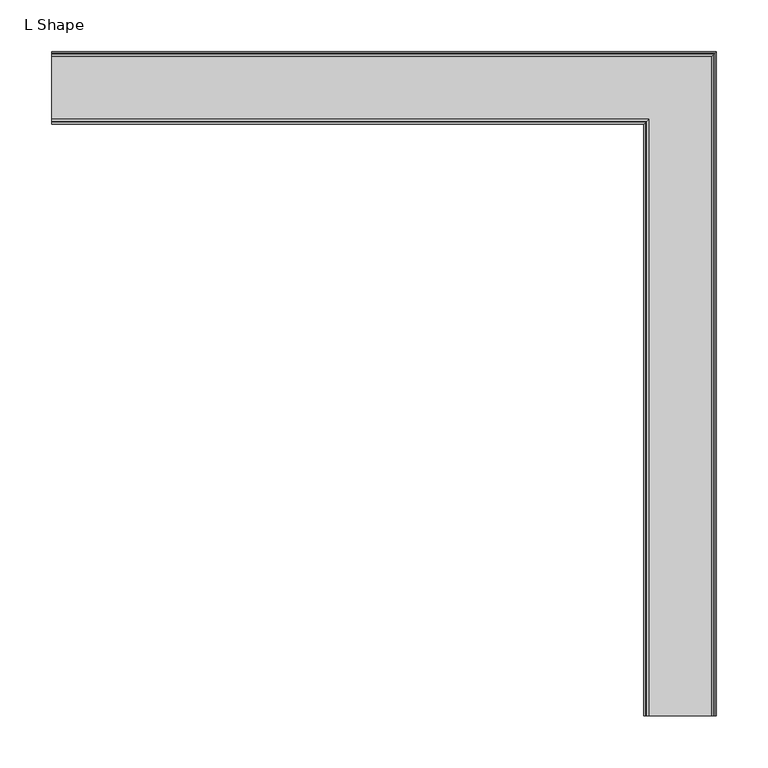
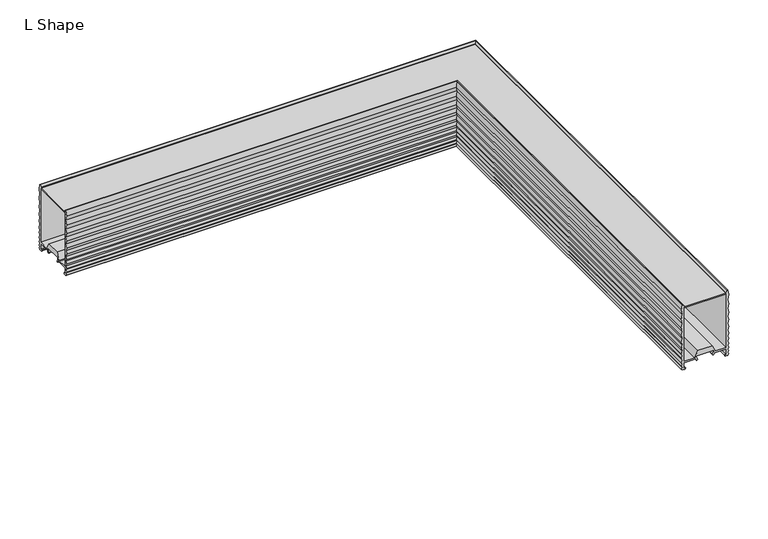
"""IFC4 building model written with IfcOpenShell, lengths in millimetres: light fixture geometry, Lighting-Pendant-Betacalco-Bellows-L_Shape : L Shape."""

from ifc_helpers import new_model, si_unit, frame, origin, place, context, project, spatial, polyline, circle_curve, ellipse_curve, outline, extrude, source, transform, mapped, element, save
from ifc_brep_helpers import plane_surface, cylinder_surface, advanced_brep


def l_shape_60d88c94(model_context):
    return source(origin(), model_context, "Body", "SolidModel", [
        advanced_brep(
        [(273.578, -609.6, 620.268), (291.2870711, -609.6, 620.268), (292.0570321, -609.6, 618.214822), (293.7447356, -609.6, 618.8406239), (292.11399, -609.6, 623.1891701), (292.7358437, -609.6, 624.4333325), (316.8641563, -609.6, 624.4333325), (317.48601, -609.6, 623.1891701), (315.8552644, -609.6, 618.8406239), (317.5429679, -609.6, 618.214822), (318.3129289, -609.6, 620.268), (336.022, -609.6, 620.268), (336.022, -609.6, 611.759), (333.4925845, -609.6, 611.759), (335.4378, -609.6, 609.6), (338.0887943, -609.6, 609.6), (339.9621621, -609.6, 611.6283861), (338.181, -609.6, 613.664), (339.959, -609.6, 616.204), (338.181, -609.6, 618.744), (339.959, -609.6, 621.792), (338.181, -609.6, 624.84), (339.959, -609.6, 628.396), (338.181, -609.6, 631.952), (339.959, -609.6, 635.762), (338.181, -609.6, 639.572), (339.9303587, -609.6, 644.0703509), (338.2082002, -609.6, 648.6460566), (339.9355055, -609.6, 653.7288728), (338.2034215, -609.6, 658.8119386), (339.9393965, -609.6, 664.402389), (338.1997837, -609.6, 669.9929656), (339.9424053, -609.6, 676.091104), (338.1964031, -609.6, 682.1911894), (339.9466792, -609.6, 689.3067168), (338.1931082, -609.6, 696.4195673), (339.9474913, -609.6, 703.786321), (338.1814932, -609.6, 711.2), (337.3877432, -609.6, 711.2), (335.22825, -609.6, 708.8470342), (335.22825, -609.6, 707.3961196), (336.022, -609.6, 707.3961196), (336.022, -609.6, 622.427), (320.2806146, -609.6, 622.427), (315.4222255, -609.6, 632.1473325), (294.1777745, -609.6, 632.1473325), (289.3193854, -609.6, 622.427), (273.578, -609.6, 622.427), (273.578, -609.6, 707.3961196), (274.37175, -609.6, 707.3961196), (274.37175, -609.6, 708.8470342), (272.2122568, -609.6, 711.2), (271.4185068, -609.6, 711.2), (269.6525087, -609.6, 703.786321), (271.4068918, -609.6, 696.4195673), (269.6533208, -609.6, 689.3067168), (271.4035969, -609.6, 682.1911894), (269.6575947, -609.6, 676.091104), (271.4002163, -609.6, 669.9929656), (269.6606035, -609.6, 664.402389), (271.3965785, -609.6, 658.8119386), (269.6644945, -609.6, 653.7288728), (271.3917998, -609.6, 648.6460566), (269.6696413, -609.6, 644.0703509), (271.419, -609.6, 639.572), (269.641, -609.6, 635.762), (271.419, -609.6, 631.952), (269.641, -609.6, 628.396), (271.419, -609.6, 624.84), (269.641, -609.6, 621.792), (271.419, -609.6, 618.744), (269.641, -609.6, 616.204), (271.419, -609.6, 613.664), (269.6378379, -609.6, 611.6283861), (271.5112057, -609.6, 609.6), (274.1622, -609.6, 609.6), (276.1074155, -609.6, 611.759), (273.578, -609.6, 611.759), (-304.8, -31.222, 620.268), (-304.8, -31.222, 611.759), (-304.8, -28.6925845, 611.759), (-304.8, -30.6378, 609.6), (-304.8, -33.2887943, 609.6), (-304.8, -35.1621621, 611.6283861), (-304.8, -33.381, 613.664), (-304.8, -35.159, 616.204), (-304.8, -33.381, 618.744), (-304.8, -35.159, 621.792), (-304.8, -33.381, 624.84), (-304.8, -35.159, 628.396), (-304.8, -33.381, 631.952), (-304.8, -35.159, 635.762), (-304.8, -33.381, 639.572), (-304.8, -35.1303587, 644.0703509), (-304.8, -33.4082002, 648.6460566), (-304.8, -35.1355055, 653.7288728), (-304.8, -33.4034215, 658.8119386), (-304.8, -35.1393965, 664.402389), (-304.8, -33.3997837, 669.9929656), (-304.8, -35.1424053, 676.091104), (-304.8, -33.3964031, 682.1911894), (-304.8, -35.1466792, 689.3067168), (-304.8, -33.3931082, 696.4195673), (-304.8, -35.1474913, 703.786321), (-304.8, -33.3814932, 711.2), (-304.8, -32.5877432, 711.2), (-304.8, -30.42825, 708.8470342), (-304.8, -30.42825, 707.3961196), (-304.8, -31.222, 707.3961196), (-304.8, -31.222, 622.427), (-304.8, -15.4806146, 622.427), (-304.8, -10.6222255, 632.1473325), (-304.8, 10.6222255, 632.1473325), (-304.8, 15.4806146, 622.427), (-304.8, 31.222, 622.427), (-304.8, 31.222, 707.3961196), (-304.8, 30.42825, 707.3961196), (-304.8, 30.42825, 708.8470342), (-304.8, 32.5877432, 711.2), (-304.8, 33.3814932, 711.2), (-304.8, 35.1474913, 703.786321), (-304.8, 33.3931082, 696.4195673), (-304.8, 35.1466792, 689.3067168), (-304.8, 33.3964031, 682.1911894), (-304.8, 35.1424053, 676.091104), (-304.8, 33.3997837, 669.9929656), (-304.8, 35.1393965, 664.402389), (-304.8, 33.4034215, 658.8119386), (-304.8, 35.1355055, 653.7288728), (-304.8, 33.4082002, 648.6460566), (-304.8, 35.1303587, 644.0703509), (-304.8, 33.381, 639.572), (-304.8, 35.159, 635.762), (-304.8, 33.381, 631.952), (-304.8, 35.159, 628.396), (-304.8, 33.381, 624.84), (-304.8, 35.159, 621.792), (-304.8, 33.381, 618.744), (-304.8, 35.159, 616.204), (-304.8, 33.381, 613.664), (-304.8, 35.1621621, 611.6283861), (-304.8, 33.2887943, 609.6), (-304.8, 30.6378, 609.6), (-304.8, 28.6925845, 611.759), (-304.8, 31.222, 611.759), (-304.8, 31.222, 620.268), (-304.8, 13.5129289, 620.268), (-304.8, 12.7429679, 618.214822), (-304.8, 11.0552644, 618.8406239), (-304.8, 12.68601, 623.1891701), (-304.8, 12.0641563, 624.4333325), (-304.8, -12.0641563, 624.4333325), (-304.8, -12.68601, 623.1891701), (-304.8, -11.0552644, 618.8406239), (-304.8, -12.7429679, 618.214822), (-304.8, -13.5129289, 620.268), (292.0570321, -12.7429679, 618.214822), (291.2870711, -13.5129289, 620.268), (293.7447356, -11.0552644, 618.8406239), (292.11399, -12.68601, 623.1891701), (292.7358437, -12.0641563, 624.4333325), (317.48601, 12.68601, 623.1891701), (316.8641563, 12.0641563, 624.4333325), (315.8552644, 11.0552644, 618.8406239), (317.5429679, 12.7429679, 618.214822), (318.3129289, 13.5129289, 620.268), (336.022, 31.222, 611.759), (336.022, 31.222, 620.268), (335.4378, 30.6378, 609.6), (333.4925845, 28.6925845, 611.759), (339.9621621, 35.1621621, 611.6283861), (338.0887943, 33.2887943, 609.6), (338.181, 33.381, 613.664), (339.959, 35.159, 616.204), (338.181, 33.381, 618.744), (339.959, 35.159, 621.792), (338.181, 33.381, 624.84), (339.959, 35.159, 628.396), (338.181, 33.381, 631.952), (339.959, 35.159, 635.762), (338.181, 33.381, 639.572), (339.9303587, 35.1303587, 644.0703509), (338.2082002, 33.4082002, 648.6460566), (339.9355055, 35.1355055, 653.7288728), (338.2034215, 33.4034215, 658.8119386), (339.9393965, 35.1393965, 664.402389), (338.1997837, 33.3997837, 669.9929656), (339.9424053, 35.1424053, 676.091104), (338.1964031, 33.3964031, 682.1911894), (339.9466792, 35.1466792, 689.3067168), (338.1931082, 33.3931082, 696.4195673), (339.9474913, 35.1474913, 703.786321), (338.1814932, 33.3814932, 711.2), (335.22825, 30.42825, 708.8470342), (337.3877432, 32.5877432, 711.2), (335.22825, 30.42825, 707.3961196), (336.022, 31.222, 622.427), (336.022, 31.222, 707.3961196), (315.4222255, 10.6222255, 632.1473325), (320.2806146, 15.4806146, 622.427), (289.3193854, -15.4806146, 622.427), (294.1777745, -10.6222255, 632.1473325), (273.578, -31.222, 707.3961196), (273.578, -31.222, 622.427), (274.37175, -30.42825, 708.8470342), (274.37175, -30.42825, 707.3961196), (272.2122568, -32.5877432, 711.2), (269.6525087, -35.1474913, 703.786321), (271.4185068, -33.3814932, 711.2), (271.4068918, -33.3931082, 696.4195673), (269.6533208, -35.1466792, 689.3067168), (271.4035969, -33.3964031, 682.1911894), (269.6575947, -35.1424053, 676.091104), (271.4002163, -33.3997837, 669.9929656), (269.6606035, -35.1393965, 664.402389), (271.3965785, -33.4034215, 658.8119386), (269.6644945, -35.1355055, 653.7288728), (271.3917998, -33.4082002, 648.6460566), (269.6696413, -35.1303587, 644.0703509), (271.419, -33.381, 639.572), (269.641, -35.159, 635.762), (271.419, -33.381, 631.952), (269.641, -35.159, 628.396), (271.419, -33.381, 624.84), (269.641, -35.159, 621.792), (271.419, -33.381, 618.744), (269.641, -35.159, 616.204), (271.419, -33.381, 613.664), (269.6378379, -35.1621621, 611.6283861), (271.5112057, -33.2887943, 609.6), (276.1074155, -28.6925845, 611.759), (274.1622, -30.6378, 609.6), (273.578, -31.222, 620.268), (273.578, -31.222, 611.759)],
        [
            (0, 1),
            (1, 2),
            (2, 3, circle_curve(frame((292.8997277, -609.6, 618.5308408), z_axis=(0.0, -1.0, 0.0), x_axis=(0.34325550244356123, 0.0, -0.9392420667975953)), 0.9000021)),
            (3, 4),
            (4, 5),
            (5, 6),
            (6, 7),
            (7, 8),
            (8, 9, circle_curve(frame((316.7002723, -609.6, 618.5308408), z_axis=(0.0, -1.0, 0.0), x_axis=(-0.34325550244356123, 0.0, -0.9392420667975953)), 0.9000021)),
            (9, 10),
            (10, 11),
            (11, 12),
            (12, 13),
            (13, 14, circle_curve(frame((335.4378, -609.6, 611.5558), z_axis=(0.0, -1.0, 0.0), x_axis=(0.0, 0.0, -1.0)), 1.9558)),
            (14, 15),
            (15, 16),
            (16, 17),
            (17, 18),
            (18, 19),
            (19, 20),
            (20, 21),
            (21, 22),
            (22, 23),
            (23, 24),
            (24, 25),
            (25, 26),
            (26, 27),
            (27, 28),
            (28, 29),
            (29, 30),
            (30, 31),
            (31, 32),
            (32, 33),
            (33, 34),
            (34, 35),
            (35, 36),
            (36, 37),
            (37, 38),
            (38, 39),
            (39, 40),
            (40, 41),
            (41, 42),
            (42, 43),
            (43, 44),
            (44, 45),
            (45, 46),
            (46, 47),
            (47, 48),
            (48, 49),
            (49, 50),
            (50, 51),
            (51, 52),
            (52, 53),
            (53, 54),
            (54, 55),
            (55, 56),
            (56, 57),
            (57, 58),
            (58, 59),
            (59, 60),
            (60, 61),
            (61, 62),
            (62, 63),
            (63, 64),
            (64, 65),
            (65, 66),
            (66, 67),
            (67, 68),
            (68, 69),
            (69, 70),
            (70, 71),
            (71, 72),
            (72, 73),
            (73, 74),
            (74, 75),
            (75, 76, circle_curve(frame((274.1622, -609.6, 611.5558), z_axis=(0.0, -1.0, 0.0), x_axis=(0.0, 0.0, -1.0)), 1.9558)),
            (76, 77),
            (77, 0),
            (78, 79),
            (79, 80),
            (80, 81, circle_curve(frame((-304.8, -30.6378, 611.5558), z_axis=(-1.0, 0.0, 0.0), x_axis=(0.0, 0.0, -1.0)), 1.9558)),
            (81, 82),
            (82, 83),
            (83, 84),
            (84, 85),
            (85, 86),
            (86, 87),
            (87, 88),
            (88, 89),
            (89, 90),
            (90, 91),
            (91, 92),
            (92, 93),
            (93, 94),
            (94, 95),
            (95, 96),
            (96, 97),
            (97, 98),
            (98, 99),
            (99, 100),
            (100, 101),
            (101, 102),
            (102, 103),
            (103, 104),
            (104, 105),
            (105, 106),
            (106, 107),
            (107, 108),
            (108, 109),
            (109, 110),
            (110, 111),
            (111, 112),
            (112, 113),
            (113, 114),
            (114, 115),
            (115, 116),
            (116, 117),
            (117, 118),
            (118, 119),
            (119, 120),
            (120, 121),
            (121, 122),
            (122, 123),
            (123, 124),
            (124, 125),
            (125, 126),
            (126, 127),
            (127, 128),
            (128, 129),
            (129, 130),
            (130, 131),
            (131, 132),
            (132, 133),
            (133, 134),
            (134, 135),
            (135, 136),
            (136, 137),
            (137, 138),
            (138, 139),
            (139, 140),
            (140, 141),
            (141, 142),
            (142, 143, circle_curve(frame((-304.8, 30.6378, 611.5558), z_axis=(-1.0, 0.0, 0.0), x_axis=(0.0, 0.0, -1.0)), 1.9558)),
            (143, 144),
            (144, 145),
            (145, 146),
            (146, 147),
            (147, 148, circle_curve(frame((-304.8, 11.9002723, 618.5308408), z_axis=(-1.0, 0.0, 0.0), x_axis=(0.0, -0.34325550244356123, -0.9392420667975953)), 0.9000021)),
            (148, 149),
            (149, 150),
            (150, 151),
            (151, 152),
            (152, 153),
            (153, 154, circle_curve(frame((-304.8, -11.9002723, 618.5308408), z_axis=(-1.0, 0.0, 0.0), x_axis=(0.0, 0.34325550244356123, -0.9392420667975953)), 0.9000021)),
            (154, 155),
            (155, 78),
            (156, 157),
            (157, 155),
            (154, 156),
            (158, 156, ellipse_curve(frame((292.8997277, -11.9002723, 618.5308408), z_axis=(-0.7071067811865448, 0.7071067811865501, 0.0), x_axis=(0.7071067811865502, 0.7071067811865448, 0.0)), 1.2727952, 0.9000021)),
            (153, 158),
            (159, 158),
            (152, 159),
            (160, 159),
            (151, 160),
            (161, 162),
            (162, 150),
            (149, 161),
            (163, 161),
            (148, 163),
            (164, 163, ellipse_curve(frame((316.7002723, 11.9002723, 618.5308408), z_axis=(-0.7071067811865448, 0.7071067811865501, 0.0), x_axis=(0.7071067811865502, 0.7071067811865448, 0.0)), 1.2727952, 0.9000021)),
            (147, 164),
            (165, 164),
            (146, 165),
            (166, 167),
            (167, 145),
            (144, 166),
            (168, 169, ellipse_curve(frame((335.4378, 30.6378, 611.5558), z_axis=(-0.7071067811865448, 0.7071067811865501, 0.0), x_axis=(0.7071067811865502, 0.7071067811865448, 0.0)), 2.7659189, 1.9558)),
            (169, 143),
            (142, 168),
            (170, 171),
            (171, 141),
            (140, 170),
            (172, 170),
            (139, 172),
            (173, 172),
            (138, 173),
            (174, 173),
            (137, 174),
            (175, 174),
            (136, 175),
            (176, 175),
            (135, 176),
            (177, 176),
            (134, 177),
            (178, 177),
            (133, 178),
            (179, 178),
            (132, 179),
            (180, 179),
            (131, 180),
            (181, 180),
            (130, 181),
            (182, 181),
            (129, 182),
            (183, 182),
            (128, 183),
            (184, 183),
            (127, 184),
            (185, 184),
            (126, 185),
            (186, 185),
            (125, 186),
            (187, 186),
            (124, 187),
            (188, 187),
            (123, 188),
            (189, 188),
            (122, 189),
            (190, 189),
            (121, 190),
            (191, 190),
            (120, 191),
            (192, 191),
            (119, 192),
            (193, 194),
            (194, 118),
            (117, 193),
            (195, 193),
            (116, 195),
            (196, 197),
            (197, 115),
            (114, 196),
            (198, 199),
            (199, 113),
            (112, 198),
            (200, 201),
            (201, 111),
            (110, 200),
            (202, 203),
            (203, 109),
            (108, 202),
            (204, 205),
            (205, 107),
            (106, 204),
            (206, 204),
            (105, 206),
            (207, 208),
            (208, 104),
            (103, 207),
            (209, 207),
            (102, 209),
            (210, 209),
            (101, 210),
            (211, 210),
            (100, 211),
            (212, 211),
            (99, 212),
            (213, 212),
            (98, 213),
            (214, 213),
            (97, 214),
            (215, 214),
            (96, 215),
            (216, 215),
            (95, 216),
            (217, 216),
            (94, 217),
            (218, 217),
            (93, 218),
            (219, 218),
            (92, 219),
            (220, 219),
            (91, 220),
            (221, 220),
            (90, 221),
            (222, 221),
            (89, 222),
            (223, 222),
            (88, 223),
            (224, 223),
            (87, 224),
            (225, 224),
            (86, 225),
            (226, 225),
            (85, 226),
            (227, 226),
            (84, 227),
            (228, 227),
            (83, 228),
            (229, 228),
            (82, 229),
            (230, 231, ellipse_curve(frame((274.1622, -30.6378, 611.5558), z_axis=(-0.7071067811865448, 0.7071067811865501, 0.0), x_axis=(0.7071067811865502, 0.7071067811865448, 0.0)), 2.7659189, 1.9558)),
            (231, 81),
            (80, 230),
            (232, 233),
            (233, 79),
            (78, 232),
            (0, 232),
            (157, 1),
            (156, 2),
            (158, 3),
            (159, 4),
            (160, 5),
            (162, 6),
            (161, 7),
            (163, 8),
            (164, 9),
            (165, 10),
            (167, 11),
            (166, 12),
            (169, 13),
            (168, 14),
            (171, 15),
            (170, 16),
            (172, 17),
            (173, 18),
            (174, 19),
            (175, 20),
            (176, 21),
            (177, 22),
            (178, 23),
            (179, 24),
            (180, 25),
            (181, 26),
            (182, 27),
            (183, 28),
            (184, 29),
            (185, 30),
            (186, 31),
            (187, 32),
            (188, 33),
            (189, 34),
            (190, 35),
            (191, 36),
            (192, 37),
            (194, 38),
            (193, 39),
            (195, 40),
            (197, 41),
            (196, 42),
            (199, 43),
            (198, 44),
            (201, 45),
            (200, 46),
            (203, 47),
            (202, 48),
            (205, 49),
            (204, 50),
            (206, 51),
            (208, 52),
            (207, 53),
            (209, 54),
            (210, 55),
            (211, 56),
            (212, 57),
            (213, 58),
            (214, 59),
            (215, 60),
            (216, 61),
            (217, 62),
            (218, 63),
            (219, 64),
            (220, 65),
            (221, 66),
            (222, 67),
            (223, 68),
            (224, 69),
            (225, 70),
            (226, 71),
            (227, 72),
            (228, 73),
            (229, 74),
            (231, 75),
            (230, 76),
            (233, 77),
        ],
        [
            plane_surface(frame((304.8, -609.6, 0.0), z_axis=(0.0, -1.0, 0.0), x_axis=(0.0, 0.0, 1.0))),
            plane_surface(frame((-304.8, 0.0, 0.0), z_axis=(-1.0, 0.0, 0.0), x_axis=(0.0, 0.0, 1.0))),
            plane_surface(frame((291.2870711, -13.5129289, 620.268), z_axis=(0.0, -0.9363262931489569, -0.3511311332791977), x_axis=(-1.0, 0.0, 0.0))),
            cylinder_surface(frame((304.8, -11.9002723, 618.5308408), z_axis=(1.0, 0.0, 0.0), x_axis=(0.0, 0.34325550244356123, -0.9392420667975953)), 0.9000021),
            plane_surface(frame((293.7447356, -11.0552644, 618.8406239), z_axis=(0.0, 0.9363262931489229, 0.35113113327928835), x_axis=(-1.0, 0.0, 0.0))),
            plane_surface(frame((292.11399, -12.68601, 623.1891701), z_axis=(0.0, 0.89449260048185, -0.44708275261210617), x_axis=(-1.0, 0.0, 0.0))),
            plane_surface(frame((316.8641563, 12.0641563, 624.4333325), z_axis=(0.0, -0.89449260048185, -0.44708275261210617), x_axis=(-1.0, 0.0, 0.0))),
            plane_surface(frame((317.48601, 12.68601, 623.1891701), z_axis=(0.0, -0.9363262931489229, 0.35113113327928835), x_axis=(-1.0, 0.0, 0.0))),
            cylinder_surface(frame((304.8, 11.9002723, 618.5308408), z_axis=(1.0, 0.0, 0.0), x_axis=(0.0, -0.34325550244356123, -0.9392420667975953)), 0.9000021),
            plane_surface(frame((317.5429679, 12.7429679, 618.214822), z_axis=(0.0, 0.9363262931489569, -0.3511311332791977), x_axis=(-1.0, 0.0, 0.0))),
            plane_surface(frame((336.022, 31.222, 620.268), z_axis=(0.0, -1.0, 0.0), x_axis=(-1.0, 0.0, 0.0))),
            cylinder_surface(frame((304.8, 30.6378, 611.5558), z_axis=(1.0, 0.0, 0.0), x_axis=(0.0, 0.0, -1.0)), 1.9558),
            plane_surface(frame((338.0887943, 33.2887943, 609.6), z_axis=(0.0, 0.7346208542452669, -0.6784778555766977), x_axis=(-1.0, 0.0, 0.0))),
            plane_surface(frame((339.9621621, 35.1621621, 611.6283861), z_axis=(0.0, 0.75257669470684, 0.6585046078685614), x_axis=(-1.0, 0.0, 0.0))),
            plane_surface(frame((338.181, 33.381, 613.664), z_axis=(0.0, 0.8192319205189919, -0.5734623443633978), x_axis=(-1.0, 0.0, 0.0))),
            plane_surface(frame((339.959, 35.159, 616.204), z_axis=(0.0, 0.8192319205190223, 0.5734623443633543), x_axis=(-1.0, 0.0, 0.0))),
            plane_surface(frame((338.181, 33.381, 618.744), z_axis=(0.0, 0.8637789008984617, -0.503871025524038), x_axis=(-1.0, 0.0, 0.0))),
            plane_surface(frame((339.959, 35.159, 621.792), z_axis=(0.0, 0.8637789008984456, 0.5038710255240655), x_axis=(-1.0, 0.0, 0.0))),
            plane_surface(frame((338.181, 33.381, 624.84), z_axis=(0.0, 0.8944271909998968, -0.4472135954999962), x_axis=(-1.0, 0.0, 0.0))),
            plane_surface(frame((339.959, 35.159, 628.396), z_axis=(0.0, 0.8944271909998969, 0.44721359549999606), x_axis=(-1.0, 0.0, 0.0))),
            plane_surface(frame((338.181, 33.381, 631.952), z_axis=(0.0, 0.9061831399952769, -0.4228854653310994), x_axis=(-1.0, 0.0, 0.0))),
            plane_surface(frame((339.959, 35.159, 635.762), z_axis=(0.0, 0.9061831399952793, 0.4228854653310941), x_axis=(-1.0, 0.0, 0.0))),
            plane_surface(frame((338.181, 33.381, 639.572), z_axis=(0.0, 0.9320046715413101, -0.362446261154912), x_axis=(-1.0, 0.0, 0.0))),
            plane_surface(frame((339.9303587, 35.1303587, 644.0703509), z_axis=(0.0, 0.9359069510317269, 0.35224732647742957), x_axis=(-1.0, 0.0, 0.0))),
            plane_surface(frame((338.2082002, 33.4082002, 648.6460566), z_axis=(0.0, 0.9468211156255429, -0.3217604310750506), x_axis=(-1.0, 0.0, 0.0))),
            plane_surface(frame((339.9355055, 35.1355055, 653.7288728), z_axis=(0.0, 0.9465545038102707, 0.3225439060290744), x_axis=(-1.0, 0.0, 0.0))),
            plane_surface(frame((338.2034215, 33.4034215, 658.8119386), z_axis=(0.0, 0.9550153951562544, -0.2965562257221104), x_axis=(-1.0, 0.0, 0.0))),
            plane_surface(frame((339.9393965, 35.1393965, 664.402389), z_axis=(0.0, 0.9548411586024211, 0.29711674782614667), x_axis=(-1.0, 0.0, 0.0))),
            plane_surface(frame((338.1997837, 33.3997837, 669.9929656), z_axis=(0.0, 0.9615116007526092, -0.2747643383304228), x_axis=(-1.0, 0.0, 0.0))),
            plane_surface(frame((339.9424053, 35.1424053, 676.091104), z_axis=(0.0, 0.9613939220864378, 0.27517581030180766), x_axis=(-1.0, 0.0, 0.0))),
            plane_surface(frame((338.1964031, 33.3964031, 682.1911894), z_axis=(0.0, 0.971054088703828, -0.23885970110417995), x_axis=(-1.0, 0.0, 0.0))),
            plane_surface(frame((339.9466792, 35.1466792, 689.3067168), z_axis=(0.0, 0.9709287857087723, 0.23936852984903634), x_axis=(-1.0, 0.0, 0.0))),
            plane_surface(frame((338.1931082, 33.3931082, 696.4195673), z_axis=(0.0, 0.9727944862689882, -0.23166978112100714), x_axis=(-1.0, 0.0, 0.0))),
            plane_surface(frame((339.9474913, 35.1474913, 703.786321), z_axis=(0.0, 0.9727814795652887, 0.23172439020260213), x_axis=(-1.0, 0.0, 0.0))),
            plane_surface(frame((337.3877432, 32.5877432, 711.2), z_axis=(0.0, -0.7367472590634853, 0.6761682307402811), x_axis=(-1.0, 0.0, 0.0))),
            plane_surface(frame((335.22825, 30.42825, 708.8470342), z_axis=(0.0, -1.0, 0.0), x_axis=(-1.0, 0.0, 0.0))),
            plane_surface(frame((336.022, 31.222, 707.3961196), z_axis=(0.0, -1.0, 0.0), x_axis=(-1.0, 0.0, 0.0))),
            plane_surface(frame((320.2806146, 15.4806146, 622.427), z_axis=(0.0, 0.8944926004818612, 0.4470827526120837), x_axis=(-1.0, 0.0, 0.0))),
            plane_surface(frame((294.1777745, -10.6222255, 632.1473325), z_axis=(0.0, -0.8944926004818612, 0.4470827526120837), x_axis=(-1.0, 0.0, 0.0))),
            plane_surface(frame((273.578, -31.222, 622.427), z_axis=(0.0, 1.0, 0.0), x_axis=(-1.0, 0.0, 0.0))),
            plane_surface(frame((274.37175, -30.42825, 707.3961196), z_axis=(0.0, 1.0, 0.0), x_axis=(-1.0, 0.0, 0.0))),
            plane_surface(frame((274.37175, -30.42825, 708.8470342), z_axis=(0.0, 0.7367472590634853, 0.6761682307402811), x_axis=(-1.0, 0.0, 0.0))),
            plane_surface(frame((271.4185068, -33.3814932, 711.2), z_axis=(0.0, -0.9727814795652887, 0.23172439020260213), x_axis=(-1.0, 0.0, 0.0))),
            plane_surface(frame((269.6525087, -35.1474913, 703.786321), z_axis=(0.0, -0.9727944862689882, -0.23166978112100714), x_axis=(-1.0, 0.0, 0.0))),
            plane_surface(frame((271.4068918, -33.3931082, 696.4195673), z_axis=(0.0, -0.9709287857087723, 0.23936852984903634), x_axis=(-1.0, 0.0, 0.0))),
            plane_surface(frame((269.6533208, -35.1466792, 689.3067168), z_axis=(0.0, -0.971054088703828, -0.23885970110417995), x_axis=(-1.0, 0.0, 0.0))),
            plane_surface(frame((271.4035969, -33.3964031, 682.1911894), z_axis=(0.0, -0.9613939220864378, 0.27517581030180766), x_axis=(-1.0, 0.0, 0.0))),
            plane_surface(frame((269.6575947, -35.1424053, 676.091104), z_axis=(0.0, -0.9615116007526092, -0.2747643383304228), x_axis=(-1.0, 0.0, 0.0))),
            plane_surface(frame((271.4002163, -33.3997837, 669.9929656), z_axis=(0.0, -0.9548411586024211, 0.29711674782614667), x_axis=(-1.0, 0.0, 0.0))),
            plane_surface(frame((269.6606035, -35.1393965, 664.402389), z_axis=(0.0, -0.9550153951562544, -0.2965562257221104), x_axis=(-1.0, 0.0, 0.0))),
            plane_surface(frame((271.3965785, -33.4034215, 658.8119386), z_axis=(0.0, -0.9465545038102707, 0.3225439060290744), x_axis=(-1.0, 0.0, 0.0))),
            plane_surface(frame((269.6644945, -35.1355055, 653.7288728), z_axis=(0.0, -0.9468211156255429, -0.3217604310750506), x_axis=(-1.0, 0.0, 0.0))),
            plane_surface(frame((271.3917998, -33.4082002, 648.6460566), z_axis=(0.0, -0.9359069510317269, 0.35224732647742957), x_axis=(-1.0, 0.0, 0.0))),
            plane_surface(frame((269.6696413, -35.1303587, 644.0703509), z_axis=(0.0, -0.9320046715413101, -0.362446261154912), x_axis=(-1.0, 0.0, 0.0))),
            plane_surface(frame((271.419, -33.381, 639.572), z_axis=(0.0, -0.9061831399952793, 0.4228854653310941), x_axis=(-1.0, 0.0, 0.0))),
            plane_surface(frame((269.641, -35.159, 635.762), z_axis=(0.0, -0.9061831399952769, -0.4228854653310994), x_axis=(-1.0, 0.0, 0.0))),
            plane_surface(frame((271.419, -33.381, 631.952), z_axis=(0.0, -0.8944271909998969, 0.44721359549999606), x_axis=(-1.0, 0.0, 0.0))),
            plane_surface(frame((269.641, -35.159, 628.396), z_axis=(0.0, -0.8944271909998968, -0.4472135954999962), x_axis=(-1.0, 0.0, 0.0))),
            plane_surface(frame((271.419, -33.381, 624.84), z_axis=(0.0, -0.8637789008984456, 0.5038710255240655), x_axis=(-1.0, 0.0, 0.0))),
            plane_surface(frame((269.641, -35.159, 621.792), z_axis=(0.0, -0.8637789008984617, -0.503871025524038), x_axis=(-1.0, 0.0, 0.0))),
            plane_surface(frame((271.419, -33.381, 618.744), z_axis=(0.0, -0.8192319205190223, 0.5734623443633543), x_axis=(-1.0, 0.0, 0.0))),
            plane_surface(frame((269.641, -35.159, 616.204), z_axis=(0.0, -0.8192319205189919, -0.5734623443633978), x_axis=(-1.0, 0.0, 0.0))),
            plane_surface(frame((271.419, -33.381, 613.664), z_axis=(0.0, -0.75257669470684, 0.6585046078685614), x_axis=(-1.0, 0.0, 0.0))),
            plane_surface(frame((269.6378379, -35.1621621, 611.6283861), z_axis=(0.0, -0.7346208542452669, -0.6784778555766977), x_axis=(-1.0, 0.0, 0.0))),
            cylinder_surface(frame((304.8, -30.6378, 611.5558), z_axis=(1.0, 0.0, 0.0), x_axis=(0.0, 0.0, -1.0)), 1.9558),
            plane_surface(frame((273.578, -31.222, 611.759), z_axis=(0.0, 1.0, 0.0), x_axis=(-1.0, 0.0, 0.0))),
            plane_surface(frame((273.578, -609.6, 620.268), z_axis=(0.0, 0.0, -1.0), x_axis=(0.0, 1.0, 0.0))),
            plane_surface(frame((291.2870711, -609.6, 620.268), z_axis=(-0.9363262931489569, 0.0, -0.3511311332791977), x_axis=(0.0, 1.0, 0.0))),
            cylinder_surface(frame((292.8997277, -609.6, 618.5308408), z_axis=(0.0, -1.0, 0.0), x_axis=(0.34325550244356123, 0.0, -0.9392420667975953)), 0.9000021),
            plane_surface(frame((293.7447356, -609.6, 618.8406239), z_axis=(0.9363262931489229, 0.0, 0.35113113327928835), x_axis=(0.0, 1.0, 0.0))),
            plane_surface(frame((292.11399, -609.6, 623.1891701), z_axis=(0.89449260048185, 0.0, -0.44708275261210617), x_axis=(0.0, 1.0, 0.0))),
            plane_surface(frame((292.7358437, -609.6, 624.4333325), z_axis=(0.0, 0.0, -1.0), x_axis=(0.0, 1.0, 0.0))),
            plane_surface(frame((316.8641563, -609.6, 624.4333325), z_axis=(-0.89449260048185, 0.0, -0.44708275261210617), x_axis=(0.0, 1.0, 0.0))),
            plane_surface(frame((317.48601, -609.6, 623.1891701), z_axis=(-0.9363262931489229, 0.0, 0.35113113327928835), x_axis=(0.0, 1.0, 0.0))),
            cylinder_surface(frame((316.7002723, -609.6, 618.5308408), z_axis=(0.0, -1.0, 0.0), x_axis=(-0.34325550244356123, 0.0, -0.9392420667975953)), 0.9000021),
            plane_surface(frame((317.5429679, -609.6, 618.214822), z_axis=(0.9363262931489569, 0.0, -0.3511311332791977), x_axis=(0.0, 1.0, 0.0))),
            plane_surface(frame((318.3129289, -609.6, 620.268), z_axis=(0.0, 0.0, -1.0), x_axis=(0.0, 1.0, 0.0))),
            plane_surface(frame((336.022, -609.6, 620.268), z_axis=(-1.0, 0.0, 0.0), x_axis=(0.0, 1.0, 0.0))),
            plane_surface(frame((336.022, -609.6, 611.759), z_axis=(0.0, 0.0, 1.0), x_axis=(0.0, 1.0, 0.0))),
            cylinder_surface(frame((335.4378, -609.6, 611.5558), z_axis=(0.0, -1.0, 0.0), x_axis=(0.0, 0.0, -1.0)), 1.9558),
            plane_surface(frame((335.4378, -609.6, 609.6), z_axis=(0.0, 0.0, -1.0), x_axis=(0.0, 1.0, 0.0))),
            plane_surface(frame((338.0887943, -609.6, 609.6), z_axis=(0.7346208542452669, 0.0, -0.6784778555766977), x_axis=(0.0, 1.0, 0.0))),
            plane_surface(frame((339.9621621, -609.6, 611.6283861), z_axis=(0.75257669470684, 0.0, 0.6585046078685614), x_axis=(0.0, 1.0, 0.0))),
            plane_surface(frame((338.181, -609.6, 613.664), z_axis=(0.8192319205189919, 0.0, -0.5734623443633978), x_axis=(0.0, 1.0, 0.0))),
            plane_surface(frame((339.959, -609.6, 616.204), z_axis=(0.8192319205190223, 0.0, 0.5734623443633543), x_axis=(0.0, 1.0, 0.0))),
            plane_surface(frame((338.181, -609.6, 618.744), z_axis=(0.8637789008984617, 0.0, -0.503871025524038), x_axis=(0.0, 1.0, 0.0))),
            plane_surface(frame((339.959, -609.6, 621.792), z_axis=(0.8637789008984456, 0.0, 0.5038710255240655), x_axis=(0.0, 1.0, 0.0))),
            plane_surface(frame((338.181, -609.6, 624.84), z_axis=(0.8944271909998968, 0.0, -0.4472135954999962), x_axis=(0.0, 1.0, 0.0))),
            plane_surface(frame((339.959, -609.6, 628.396), z_axis=(0.8944271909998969, 0.0, 0.44721359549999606), x_axis=(0.0, 1.0, 0.0))),
            plane_surface(frame((338.181, -609.6, 631.952), z_axis=(0.9061831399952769, 0.0, -0.4228854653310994), x_axis=(0.0, 1.0, 0.0))),
            plane_surface(frame((339.959, -609.6, 635.762), z_axis=(0.9061831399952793, 0.0, 0.4228854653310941), x_axis=(0.0, 1.0, 0.0))),
            plane_surface(frame((338.181, -609.6, 639.572), z_axis=(0.9320046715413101, 0.0, -0.362446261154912), x_axis=(0.0, 1.0, 0.0))),
            plane_surface(frame((339.9303587, -609.6, 644.0703509), z_axis=(0.9359069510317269, 0.0, 0.35224732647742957), x_axis=(0.0, 1.0, 0.0))),
            plane_surface(frame((338.2082002, -609.6, 648.6460566), z_axis=(0.9468211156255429, 0.0, -0.3217604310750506), x_axis=(0.0, 1.0, 0.0))),
            plane_surface(frame((339.9355055, -609.6, 653.7288728), z_axis=(0.9465545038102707, 0.0, 0.3225439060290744), x_axis=(0.0, 1.0, 0.0))),
            plane_surface(frame((338.2034215, -609.6, 658.8119386), z_axis=(0.9550153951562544, 0.0, -0.2965562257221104), x_axis=(0.0, 1.0, 0.0))),
            plane_surface(frame((339.9393965, -609.6, 664.402389), z_axis=(0.9548411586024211, 0.0, 0.29711674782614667), x_axis=(0.0, 1.0, 0.0))),
            plane_surface(frame((338.1997837, -609.6, 669.9929656), z_axis=(0.9615116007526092, 0.0, -0.2747643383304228), x_axis=(0.0, 1.0, 0.0))),
            plane_surface(frame((339.9424053, -609.6, 676.091104), z_axis=(0.9613939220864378, 0.0, 0.27517581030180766), x_axis=(0.0, 1.0, 0.0))),
            plane_surface(frame((338.1964031, -609.6, 682.1911894), z_axis=(0.971054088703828, 0.0, -0.23885970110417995), x_axis=(0.0, 1.0, 0.0))),
            plane_surface(frame((339.9466792, -609.6, 689.3067168), z_axis=(0.9709287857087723, 0.0, 0.23936852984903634), x_axis=(0.0, 1.0, 0.0))),
            plane_surface(frame((338.1931082, -609.6, 696.4195673), z_axis=(0.9727944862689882, 0.0, -0.23166978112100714), x_axis=(0.0, 1.0, 0.0))),
            plane_surface(frame((339.9474913, -609.6, 703.786321), z_axis=(0.9727814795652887, 0.0, 0.23172439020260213), x_axis=(0.0, 1.0, 0.0))),
            plane_surface(frame((338.1814932, -609.6, 711.2), z_axis=(0.0, 0.0, 1.0), x_axis=(0.0, 1.0, 0.0))),
            plane_surface(frame((337.3877432, -609.6, 711.2), z_axis=(-0.7367472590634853, 0.0, 0.6761682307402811), x_axis=(0.0, 1.0, 0.0))),
            plane_surface(frame((335.22825, -609.6, 708.8470342), z_axis=(-1.0, 0.0, 0.0), x_axis=(0.0, 1.0, 0.0))),
            plane_surface(frame((335.22825, -609.6, 707.3961196), z_axis=(0.0, 0.0, -1.0), x_axis=(0.0, 1.0, 0.0))),
            plane_surface(frame((336.022, -609.6, 707.3961196), z_axis=(-1.0, 0.0, 0.0), x_axis=(0.0, 1.0, 0.0))),
            plane_surface(frame((336.022, -609.6, 622.427), z_axis=(0.0, 0.0, 1.0), x_axis=(0.0, 1.0, 0.0))),
            plane_surface(frame((320.2806146, -609.6, 622.427), z_axis=(0.8944926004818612, 0.0, 0.4470827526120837), x_axis=(0.0, 1.0, 0.0))),
            plane_surface(frame((315.4222255, -609.6, 632.1473325), z_axis=(0.0, 0.0, 1.0), x_axis=(0.0, 1.0, 0.0))),
            plane_surface(frame((294.1777745, -609.6, 632.1473325), z_axis=(-0.8944926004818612, 0.0, 0.4470827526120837), x_axis=(0.0, 1.0, 0.0))),
            plane_surface(frame((289.3193854, -609.6, 622.427), z_axis=(0.0, 0.0, 1.0), x_axis=(0.0, 1.0, 0.0))),
            plane_surface(frame((273.578, -609.6, 622.427), z_axis=(1.0, 0.0, 0.0), x_axis=(0.0, 1.0, 0.0))),
            plane_surface(frame((273.578, -609.6, 707.3961196), z_axis=(0.0, 0.0, -1.0), x_axis=(0.0, 1.0, 0.0))),
            plane_surface(frame((274.37175, -609.6, 707.3961196), z_axis=(1.0, 0.0, 0.0), x_axis=(0.0, 1.0, 0.0))),
            plane_surface(frame((274.37175, -609.6, 708.8470342), z_axis=(0.7367472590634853, 0.0, 0.6761682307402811), x_axis=(0.0, 1.0, 0.0))),
            plane_surface(frame((272.2122568, -609.6, 711.2), z_axis=(0.0, 0.0, 1.0), x_axis=(0.0, 1.0, 0.0))),
            plane_surface(frame((271.4185068, -609.6, 711.2), z_axis=(-0.9727814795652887, 0.0, 0.23172439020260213), x_axis=(0.0, 1.0, 0.0))),
            plane_surface(frame((269.6525087, -609.6, 703.786321), z_axis=(-0.9727944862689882, 0.0, -0.23166978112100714), x_axis=(0.0, 1.0, 0.0))),
            plane_surface(frame((271.4068918, -609.6, 696.4195673), z_axis=(-0.9709287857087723, 0.0, 0.23936852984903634), x_axis=(0.0, 1.0, 0.0))),
            plane_surface(frame((269.6533208, -609.6, 689.3067168), z_axis=(-0.971054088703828, 0.0, -0.23885970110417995), x_axis=(0.0, 1.0, 0.0))),
            plane_surface(frame((271.4035969, -609.6, 682.1911894), z_axis=(-0.9613939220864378, 0.0, 0.27517581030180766), x_axis=(0.0, 1.0, 0.0))),
            plane_surface(frame((269.6575947, -609.6, 676.091104), z_axis=(-0.9615116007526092, 0.0, -0.2747643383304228), x_axis=(0.0, 1.0, 0.0))),
            plane_surface(frame((271.4002163, -609.6, 669.9929656), z_axis=(-0.9548411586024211, 0.0, 0.29711674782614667), x_axis=(0.0, 1.0, 0.0))),
            plane_surface(frame((269.6606035, -609.6, 664.402389), z_axis=(-0.9550153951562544, 0.0, -0.2965562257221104), x_axis=(0.0, 1.0, 0.0))),
            plane_surface(frame((271.3965785, -609.6, 658.8119386), z_axis=(-0.9465545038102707, 0.0, 0.3225439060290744), x_axis=(0.0, 1.0, 0.0))),
            plane_surface(frame((269.6644945, -609.6, 653.7288728), z_axis=(-0.9468211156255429, 0.0, -0.3217604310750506), x_axis=(0.0, 1.0, 0.0))),
            plane_surface(frame((271.3917998, -609.6, 648.6460566), z_axis=(-0.9359069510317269, 0.0, 0.35224732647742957), x_axis=(0.0, 1.0, 0.0))),
            plane_surface(frame((269.6696413, -609.6, 644.0703509), z_axis=(-0.9320046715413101, 0.0, -0.362446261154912), x_axis=(0.0, 1.0, 0.0))),
            plane_surface(frame((271.419, -609.6, 639.572), z_axis=(-0.9061831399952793, 0.0, 0.4228854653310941), x_axis=(0.0, 1.0, 0.0))),
            plane_surface(frame((269.641, -609.6, 635.762), z_axis=(-0.9061831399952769, 0.0, -0.4228854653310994), x_axis=(0.0, 1.0, 0.0))),
            plane_surface(frame((271.419, -609.6, 631.952), z_axis=(-0.8944271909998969, 0.0, 0.44721359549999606), x_axis=(0.0, 1.0, 0.0))),
            plane_surface(frame((269.641, -609.6, 628.396), z_axis=(-0.8944271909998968, 0.0, -0.4472135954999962), x_axis=(0.0, 1.0, 0.0))),
            plane_surface(frame((271.419, -609.6, 624.84), z_axis=(-0.8637789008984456, 0.0, 0.5038710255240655), x_axis=(0.0, 1.0, 0.0))),
            plane_surface(frame((269.641, -609.6, 621.792), z_axis=(-0.8637789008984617, 0.0, -0.503871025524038), x_axis=(0.0, 1.0, 0.0))),
            plane_surface(frame((271.419, -609.6, 618.744), z_axis=(-0.8192319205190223, 0.0, 0.5734623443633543), x_axis=(0.0, 1.0, 0.0))),
            plane_surface(frame((269.641, -609.6, 616.204), z_axis=(-0.8192319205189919, 0.0, -0.5734623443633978), x_axis=(0.0, 1.0, 0.0))),
            plane_surface(frame((271.419, -609.6, 613.664), z_axis=(-0.75257669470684, 0.0, 0.6585046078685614), x_axis=(0.0, 1.0, 0.0))),
            plane_surface(frame((269.6378379, -609.6, 611.6283861), z_axis=(-0.7346208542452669, 0.0, -0.6784778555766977), x_axis=(0.0, 1.0, 0.0))),
            plane_surface(frame((271.5112057, -609.6, 609.6), z_axis=(0.0, 0.0, -1.0), x_axis=(0.0, 1.0, 0.0))),
            cylinder_surface(frame((274.1622, -609.6, 611.5558), z_axis=(0.0, -1.0, 0.0), x_axis=(0.0, 0.0, -1.0)), 1.9558),
            plane_surface(frame((276.1074155, -609.6, 611.759), z_axis=(0.0, 0.0, 1.0), x_axis=(0.0, 1.0, 0.0))),
            plane_surface(frame((273.578, -609.6, 611.759), z_axis=(1.0, 0.0, 0.0), x_axis=(0.0, 1.0, 0.0))),
        ],
        [
            (0, [[1, 2, 3, 4, 5, 6, 7, 8, 9, 10, 11, 12, 13, 14, 15, 16, 17, 18, 19, 20, 21, 22, 23, 24, 25, 26, 27, 28, 29, 30, 31, 32, 33, 34, 35, 36, 37, 38, 39, 40, 41, 42, 43, 44, 45, 46, 47, 48, 49, 50, 51, 52, 53, 54, 55, 56, 57, 58, 59, 60, 61, 62, 63, 64, 65, 66, 67, 68, 69, 70, 71, 72, 73, 74, 75, 76, 77, 78]]),
            (1, [[79, 80, 81, 82, 83, 84, 85, 86, 87, 88, 89, 90, 91, 92, 93, 94, 95, 96, 97, 98, 99, 100, 101, 102, 103, 104, 105, 106, 107, 108, 109, 110, 111, 112, 113, 114, 115, 116, 117, 118, 119, 120, 121, 122, 123, 124, 125, 126, 127, 128, 129, 130, 131, 132, 133, 134, 135, 136, 137, 138, 139, 140, 141, 142, 143, 144, 145, 146, 147, 148, 149, 150, 151, 152, 153, 154, 155, 156]]),
            (2, [[157, 158, -155, 159]]),
            (3, [[160, -159, -154, 161]]),
            (4, [[162, -161, -153, 163]]),
            (5, [[164, -163, -152, 165]]),
            (6, [[166, 167, -150, 168]]),
            (7, [[169, -168, -149, 170]]),
            (8, [[171, -170, -148, 172]]),
            (9, [[173, -172, -147, 174]]),
            (10, [[175, 176, -145, 177]]),
            (11, [[178, 179, -143, 180]]),
            (12, [[181, 182, -141, 183]]),
            (13, [[184, -183, -140, 185]]),
            (14, [[186, -185, -139, 187]]),
            (15, [[188, -187, -138, 189]]),
            (16, [[190, -189, -137, 191]]),
            (17, [[192, -191, -136, 193]]),
            (18, [[194, -193, -135, 195]]),
            (19, [[196, -195, -134, 197]]),
            (20, [[198, -197, -133, 199]]),
            (21, [[200, -199, -132, 201]]),
            (22, [[202, -201, -131, 203]]),
            (23, [[204, -203, -130, 205]]),
            (24, [[206, -205, -129, 207]]),
            (25, [[208, -207, -128, 209]]),
            (26, [[210, -209, -127, 211]]),
            (27, [[212, -211, -126, 213]]),
            (28, [[214, -213, -125, 215]]),
            (29, [[216, -215, -124, 217]]),
            (30, [[218, -217, -123, 219]]),
            (31, [[220, -219, -122, 221]]),
            (32, [[222, -221, -121, 223]]),
            (33, [[224, -223, -120, 225]]),
            (34, [[226, 227, -118, 228]]),
            (35, [[229, -228, -117, 230]]),
            (36, [[231, 232, -115, 233]]),
            (37, [[234, 235, -113, 236]]),
            (38, [[237, 238, -111, 239]]),
            (39, [[240, 241, -109, 242]]),
            (40, [[243, 244, -107, 245]]),
            (41, [[246, -245, -106, 247]]),
            (42, [[248, 249, -104, 250]]),
            (43, [[251, -250, -103, 252]]),
            (44, [[253, -252, -102, 254]]),
            (45, [[255, -254, -101, 256]]),
            (46, [[257, -256, -100, 258]]),
            (47, [[259, -258, -99, 260]]),
            (48, [[261, -260, -98, 262]]),
            (49, [[263, -262, -97, 264]]),
            (50, [[265, -264, -96, 266]]),
            (51, [[267, -266, -95, 268]]),
            (52, [[269, -268, -94, 270]]),
            (53, [[271, -270, -93, 272]]),
            (54, [[273, -272, -92, 274]]),
            (55, [[275, -274, -91, 276]]),
            (56, [[277, -276, -90, 278]]),
            (57, [[279, -278, -89, 280]]),
            (58, [[281, -280, -88, 282]]),
            (59, [[283, -282, -87, 284]]),
            (60, [[285, -284, -86, 286]]),
            (61, [[287, -286, -85, 288]]),
            (62, [[289, -288, -84, 290]]),
            (63, [[291, -290, -83, 292]]),
            (64, [[293, 294, -81, 295]]),
            (65, [[296, 297, -79, 298]]),
            (66, [[-1, 299, -298, -156, -158, 300]]),
            (67, [[-2, -300, -157, 301]]),
            (68, [[-3, -301, -160, 302]]),
            (69, [[-4, -302, -162, 303]]),
            (70, [[-5, -303, -164, 304]]),
            (71, [[-6, -304, -165, -151, -167, 305]]),
            (72, [[-7, -305, -166, 306]]),
            (73, [[-8, -306, -169, 307]]),
            (74, [[-9, -307, -171, 308]]),
            (75, [[-10, -308, -173, 309]]),
            (76, [[-11, -309, -174, -146, -176, 310]]),
            (77, [[-12, -310, -175, 311]]),
            (78, [[-13, -311, -177, -144, -179, 312]]),
            (79, [[-14, -312, -178, 313]]),
            (80, [[-15, -313, -180, -142, -182, 314]]),
            (81, [[-16, -314, -181, 315]]),
            (82, [[-17, -315, -184, 316]]),
            (83, [[-18, -316, -186, 317]]),
            (84, [[-19, -317, -188, 318]]),
            (85, [[-20, -318, -190, 319]]),
            (86, [[-21, -319, -192, 320]]),
            (87, [[-22, -320, -194, 321]]),
            (88, [[-23, -321, -196, 322]]),
            (89, [[-24, -322, -198, 323]]),
            (90, [[-25, -323, -200, 324]]),
            (91, [[-26, -324, -202, 325]]),
            (92, [[-27, -325, -204, 326]]),
            (93, [[-28, -326, -206, 327]]),
            (94, [[-29, -327, -208, 328]]),
            (95, [[-30, -328, -210, 329]]),
            (96, [[-31, -329, -212, 330]]),
            (97, [[-32, -330, -214, 331]]),
            (98, [[-33, -331, -216, 332]]),
            (99, [[-34, -332, -218, 333]]),
            (100, [[-35, -333, -220, 334]]),
            (101, [[-36, -334, -222, 335]]),
            (102, [[-37, -335, -224, 336]]),
            (103, [[-38, -336, -225, -119, -227, 337]]),
            (104, [[-39, -337, -226, 338]]),
            (105, [[-40, -338, -229, 339]]),
            (106, [[-41, -339, -230, -116, -232, 340]]),
            (107, [[-42, -340, -231, 341]]),
            (108, [[-43, -341, -233, -114, -235, 342]]),
            (109, [[-44, -342, -234, 343]]),
            (110, [[-45, -343, -236, -112, -238, 344]]),
            (111, [[-46, -344, -237, 345]]),
            (112, [[-47, -345, -239, -110, -241, 346]]),
            (113, [[-48, -346, -240, 347]]),
            (114, [[-49, -347, -242, -108, -244, 348]]),
            (115, [[-50, -348, -243, 349]]),
            (116, [[-51, -349, -246, 350]]),
            (117, [[-52, -350, -247, -105, -249, 351]]),
            (118, [[-53, -351, -248, 352]]),
            (119, [[-54, -352, -251, 353]]),
            (120, [[-55, -353, -253, 354]]),
            (121, [[-56, -354, -255, 355]]),
            (122, [[-57, -355, -257, 356]]),
            (123, [[-58, -356, -259, 357]]),
            (124, [[-59, -357, -261, 358]]),
            (125, [[-60, -358, -263, 359]]),
            (126, [[-61, -359, -265, 360]]),
            (127, [[-62, -360, -267, 361]]),
            (128, [[-63, -361, -269, 362]]),
            (129, [[-64, -362, -271, 363]]),
            (130, [[-65, -363, -273, 364]]),
            (131, [[-66, -364, -275, 365]]),
            (132, [[-67, -365, -277, 366]]),
            (133, [[-68, -366, -279, 367]]),
            (134, [[-69, -367, -281, 368]]),
            (135, [[-70, -368, -283, 369]]),
            (136, [[-71, -369, -285, 370]]),
            (137, [[-72, -370, -287, 371]]),
            (138, [[-73, -371, -289, 372]]),
            (139, [[-74, -372, -291, 373]]),
            (140, [[-75, -373, -292, -82, -294, 374]]),
            (141, [[-76, -374, -293, 375]]),
            (142, [[-77, -375, -295, -80, -297, 376]]),
            (143, [[-78, -376, -296, -299]]),
        ],
    ),
        extrude(outline(polyline([(336.022, -609.6), (273.578, -609.6), (273.578, -31.222), (-304.8, -31.222), (-304.8, 31.222), (336.022, 31.222), (336.022, -609.6)])), frame((0.0, 0.0, 705.9991196), z_axis=(0.0, 0.0, 1.0), x_axis=(1.0, 0.0, 0.0)), (0.0, 0.0, 1.0), 1.397),
    ])


if __name__ == "__main__":
    model = new_model("IFC4")
    model_context = context("Model", 3, world=origin())
    ifc_project = project(units=[si_unit("LENGTHUNIT", "METRE", prefix="MILLI")], contexts=[model_context])
    site = spatial("IfcSite", under=ifc_project)
    building = spatial("IfcBuilding", under=site)
    placement = place(None, origin())
    l_shape_shape = l_shape_60d88c94(model_context)
    element("IfcLightFixture", 1, ObjectType="Lighting-Pendant-Betacalco-Bellows-L_Shape : L Shape", at=placement, inside=building, context=model_context, shape_type="MappedRepresentation", body=[
        mapped(l_shape_shape, transform((0.0, 0.0, 0.0), x_axis=(1.0, 0.0, 0.0), y_axis=(0.0, 1.0, 0.0), z_axis=(0.0, 0.0, 1.0))),
    ])
    save(model, "model.ifc")
